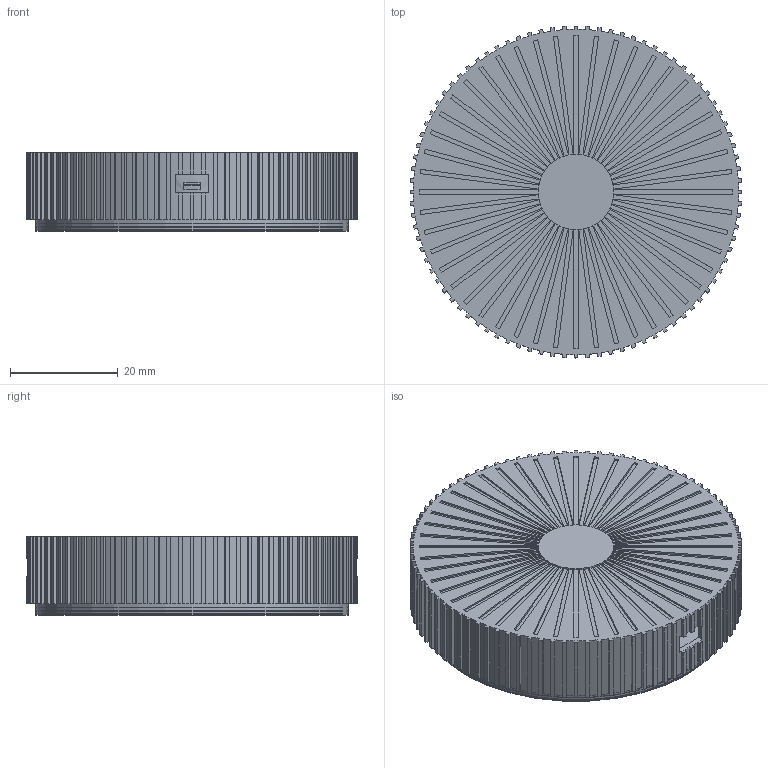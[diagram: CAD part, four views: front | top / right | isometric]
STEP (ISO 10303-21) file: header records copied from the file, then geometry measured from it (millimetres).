
FILE_DESCRIPTION(('Open CASCADE Model'),'2;1');
FILE_NAME('Open CASCADE Shape Model','2026-11-25T02:00:34',('Author'),( 'Open CASCADE'),'Open CASCADE STEP processor 7.9','Open CASCADE 7.9' ,'Unknown');
FILE_SCHEMA(('AUTOMOTIVE_DESIGN { 1 0 10303 214 1 1 1 1 }'));
Length unit declared in the file: millimetre
Products named in the file (21): Reverse_Load_Base_M2_Released; Rotating_Cap; Actuator_Compliance_Ring; Actuator_Shim; Encoder_Magnet; Stationary_Housing; Flexure_Retention_System; PCB_Dummy; Angle_Sensor_Dummy; BLE_MCU_Dummy; Tactile_Switch; CR2032; Battery_Holder; MagSafe_Magnet_Array; Magnetic_Shield; Bottom_Cover; Magnet_Retainer; Phone_Pad; M2_Fasteners; M2_Inserts; PCB_Spacer_Bushings
Assembly tree (20 placements, depth 2):
  Reverse_Load_Base_M2_Released
    Rotating_Cap
    Actuator_Compliance_Ring
    Actuator_Shim
    Encoder_Magnet
    Stationary_Housing
    Flexure_Retention_System
    PCB_Dummy
    Angle_Sensor_Dummy
    BLE_MCU_Dummy
    Tactile_Switch
    CR2032
    Battery_Holder
    MagSafe_Magnet_Array
    Magnetic_Shield
    Bottom_Cover
    Magnet_Retainer
    Phone_Pad
    M2_Fasteners
    M2_Inserts
    PCB_Spacer_Bushings
Bounding box: 61.6 x 61.6 x 14.65 mm (x, y, z)
Volume: 20616.5 mm3; surface area: 49555.8 mm2
Topology: 54 solids, 54 shells, 1739 faces, 4371 edges, 2817 vertices
Faces by surface type: plane 957, cylinder 413, bspline 326, cone 43
Full cylindrical faces by diameter (mm): 1.6 x1, 1.8 x4, 2 x8, 2.2 x8, 3.1 x4, 3.2 x4, 3.4 x4, 3.6 x8, 4.4 x4, 4.6 x4, 4.95 x24, 5 x25, 5.2 x1, 6.2 x4, 7.4 x1, 20 x1, 23.2 x3, 24.5 x1, 27.4 x3, 36.5 x1, 39.3 x2, 40.3 x1, 40.4 x1, 41.7 x1, 42 x2, 43.55 x1, 44.05 x1, 54.45 x1, 54.95 x1, 56.1 x1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
Entity records: 111436 total; most frequent: CARTESIAN_POINT 25837, DIRECTION 14595, LINE 9286, VECTOR 9286, ORIENTED_EDGE 8742, PCURVE 8742, DEFINITIONAL_REPRESENTATION 8742, EDGE_CURVE 4371
